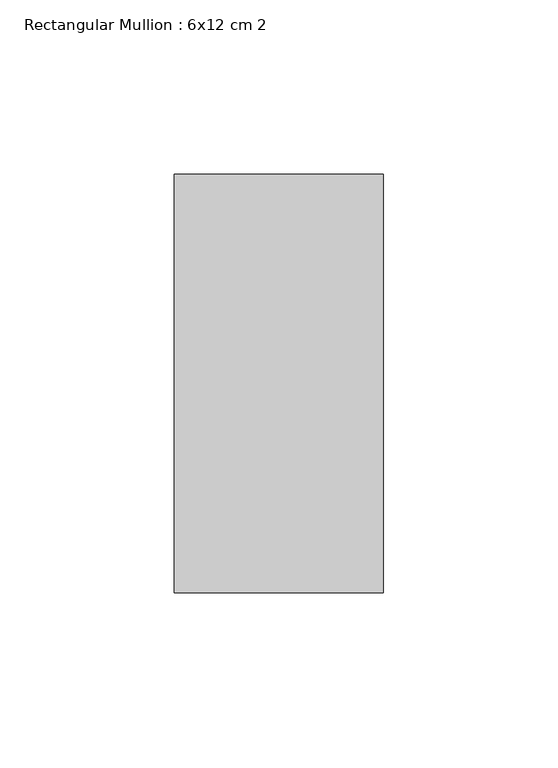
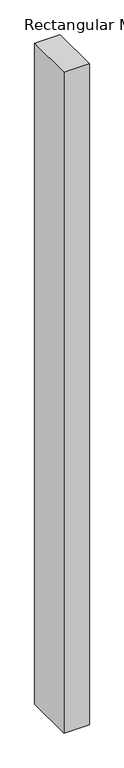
"""IFC4 building model written with IfcOpenShell, lengths in millimetres: member geometry, Rectangular Mullion : 6x12 cm 2."""

from ifc_helpers import new_model, si_unit, frame, origin, place, context, project, spatial, polyline, outline, extrude, source, transform, mapped, element, save


def rectangular_mullion_6x12_cm_2_b6dc48c0(model_context):
    return source(origin(), model_context, "Body", "SweptSolid", [
        extrude(outline(polyline([(0.0, 205.0), (0.0, 85.0), (-60.0, 85.0), (-60.0, 205.0), (0.0, 205.0)])), frame((0.0, 0.0, -1652.9384439), z_axis=(0.0, 0.0, 1.0), x_axis=(1.0, 0.0, 0.0)), (0.0, 0.0, 1.0), 1652.9384439),
    ])


if __name__ == "__main__":
    model = new_model("IFC4")
    model_context = context("Model", 3, world=origin())
    ifc_project = project(units=[si_unit("LENGTHUNIT", "METRE", prefix="MILLI")], contexts=[model_context])
    site = spatial("IfcSite", under=ifc_project)
    building = spatial("IfcBuilding", under=site)
    placement = place(None, origin())
    rectangular_mullion_6x12_cm_2_shape = rectangular_mullion_6x12_cm_2_b6dc48c0(model_context)
    element("IfcMember", 1, ObjectType="Rectangular Mullion : 6x12 cm 2", at=placement, inside=building, context=model_context, shape_type="MappedRepresentation", body=[
        mapped(rectangular_mullion_6x12_cm_2_shape, transform((0.0, 0.0, 0.0), x_axis=(1.0, 0.0, 0.0), y_axis=(0.0, 1.0, 0.0), z_axis=(0.0, 0.0, 1.0))),
    ])
    save(model, "model.ifc")
